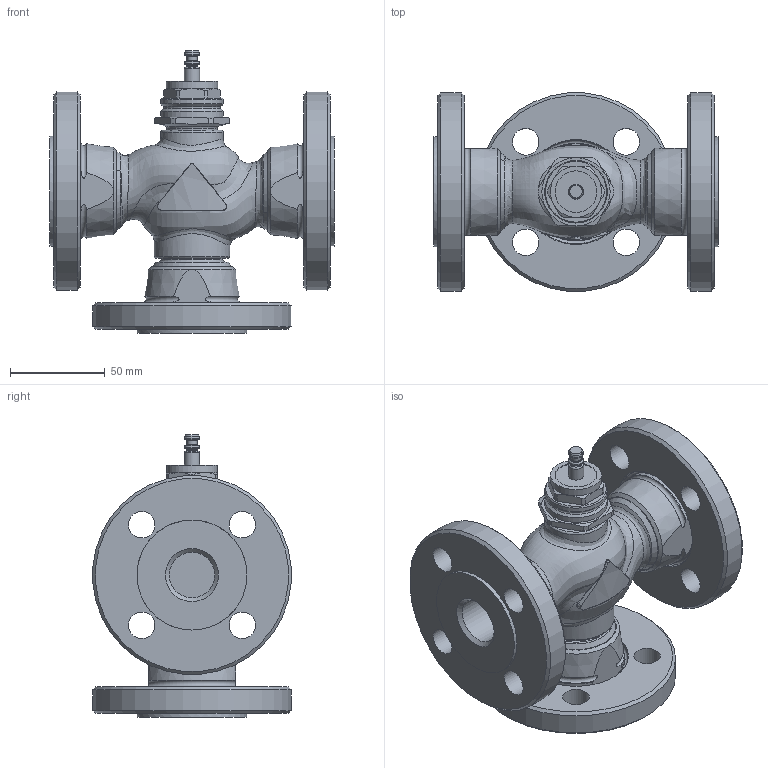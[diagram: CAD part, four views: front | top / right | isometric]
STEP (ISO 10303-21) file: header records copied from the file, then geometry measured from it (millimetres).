
FILE_DESCRIPTION(/* description */ (''),/* implementation_level */ '2;1');
FILE_NAME(/* name */ 'rv111s_dn20_3_F.stp',/* time_stamp */ '2012-02-28T09:49:56+01:00',/* author */ ('KLIMES'),/* organization */ ('LDM'),/* preprocessor_version */ 'ST-DEVELOPER v11',/* originating_system */ 'SIEMENS PLM Software NX 7.0',/* authorisation */ '');
FILE_SCHEMA (('CONFIG_CONTROL_DESIGN'));
Length unit declared in the file: millimetre
Products named in the file (1): klimEAFB3ctp
Bounding box: 150 x 104.6 x 149 mm (x, y, z)
Volume: 588127.4 mm3; surface area: 113595.1 mm2
Topology: 4 solids, 4 shells, 237 faces, 545 edges, 344 vertices
Faces by surface type: cylinder 71, plane 63, cone 61, torus 22, bspline 20
Full cylindrical faces by diameter (mm): 5.3 x1, 5.5 x1, 8 x3, 14 x12, 22 x1, 24 x3, 26.5 x1, 27 x1, 32.5 x1, 33 x3, 38.952 x3, 40 x1, 41.91 x3, 42 x3, 58 x3, 105 x3
Entity records: 11846 total; most frequent: CARTESIAN_POINT 7121, DIRECTION 948, ORIENTED_EDGE 812, AXIS2_PLACEMENT_3D 441, EDGE_CURVE 406, EDGE_LOOP 394, VERTEX_POINT 304, FACE_BOUND 288
